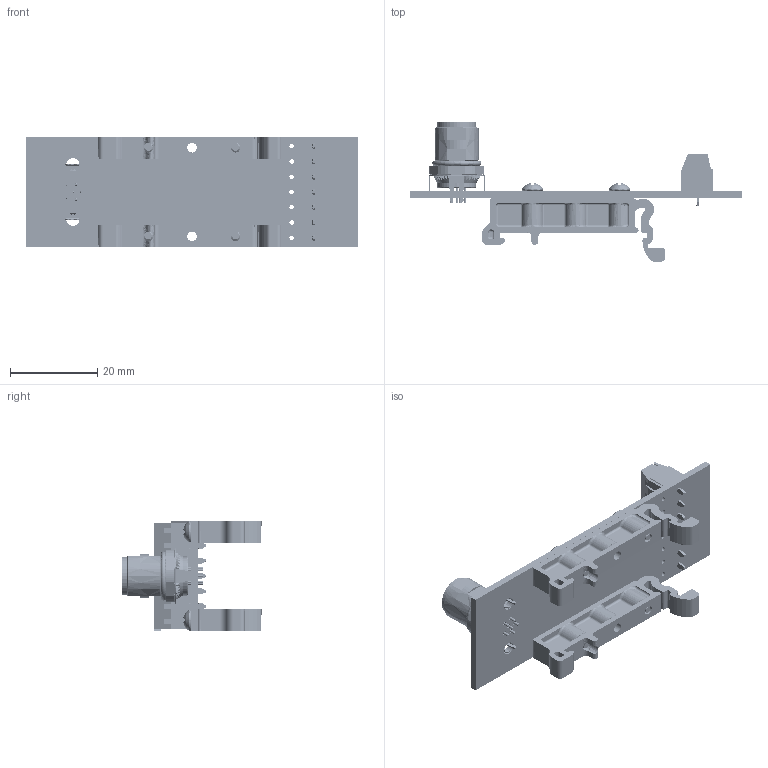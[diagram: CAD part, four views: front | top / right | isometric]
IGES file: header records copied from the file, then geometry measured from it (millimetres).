
Start section: SolidWorks IGES file using analytic representation for surfaces
Global section: file name: W:\end-user\products\brk\brkm8\brkm8a-6fs\3dmodel\rev_a-2\render\brkm8a-6fs-din_rev_a.igs; native system: SolidWorks 2018; preprocessor: SolidWorks 2018; author: leviroy; date: 250519.125019; units: inch
Bounding box: 76.2 x 31.92 x 25.41 mm (x, y, z)
Surface area: 11131.9 mm2 (no closed solid volume)
Topology: 0 solids, 0 shells, 3157 faces, 30061 edges, 30039 vertices
Faces by surface type: bspline 2281, revolution 876
